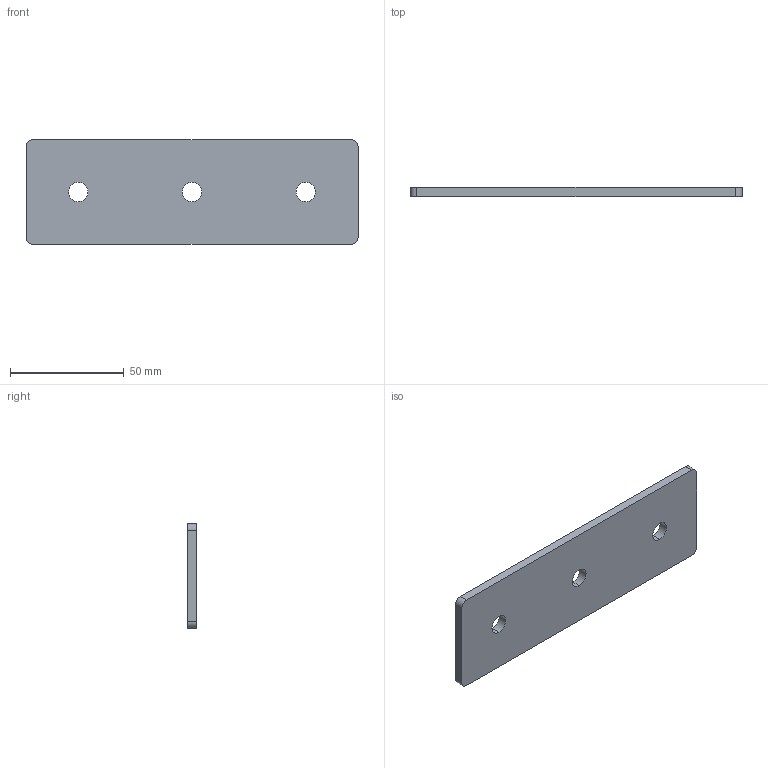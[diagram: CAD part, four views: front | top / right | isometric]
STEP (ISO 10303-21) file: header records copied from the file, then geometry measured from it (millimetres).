
FILE_DESCRIPTION (( 'STEP AP203' ), '1' );
FILE_NAME ('Ï-3-50.STEP', '2017-03-22T07:02:16', ( 'RosInstal-MKM' ), ( '' ), 'SwSTEP 2.0', 'SolidWorks 2014', '' );
FILE_SCHEMA (( 'CONFIG_CONTROL_DESIGN' ));
Length unit declared in the file: millimetre
Products named in the file (1): ﾏ-3-50
Bounding box: 146 x 4 x 46 mm (x, y, z)
Volume: 26152.6 mm3; surface area: 14912.2 mm2
Topology: 1 solids, 1 shells, 16 faces, 42 edges, 28 vertices
Faces by surface type: cylinder 10, plane 6
Entity records: 595 total; most frequent: DIRECTION 96, CARTESIAN_POINT 87, ORIENTED_EDGE 84, EDGE_CURVE 42, AXIS2_PLACEMENT_3D 37, VERTEX_POINT 28, EDGE_LOOP 22, LINE 22
